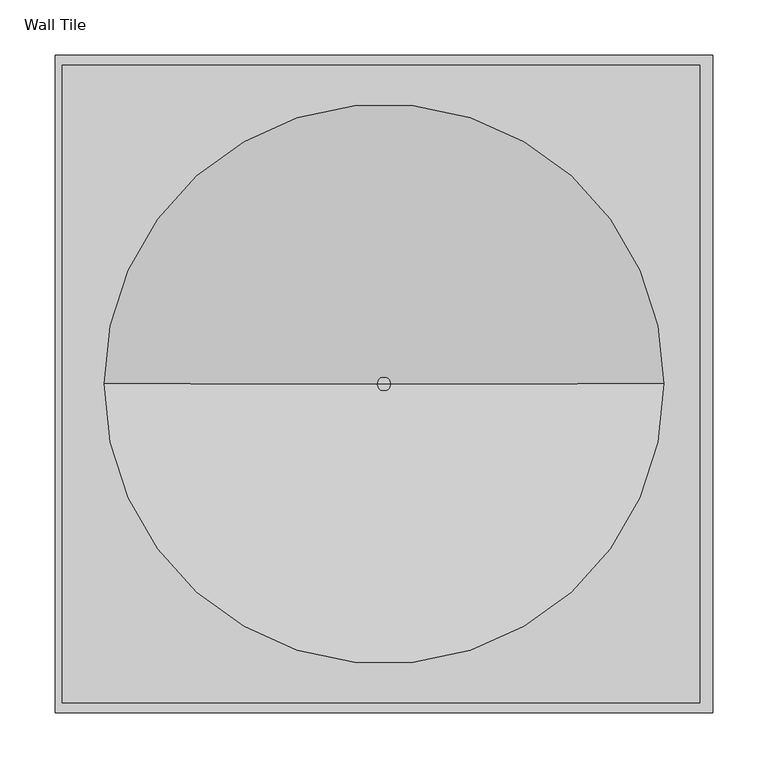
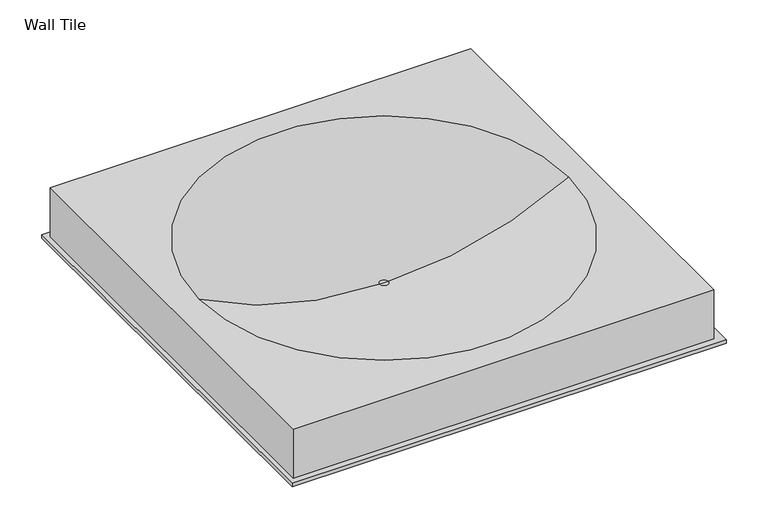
"""IFC4 building model written with IfcOpenShell, lengths in millimetres: proxy geometry, Ceiling_Tile-Qwel-Deep_Dish : Wall Tile."""

from ifc_helpers import new_model, si_unit, point, frame, origin, origin_with_axes, place, context, project, spatial, polyline, circle_curve, ellipse_curve, trimmed, outline, extrude, source, transform, mapped, element, save
from ifc_brep_helpers import plane_surface, revolved_surface, advanced_brep


def wall_tile_f553bee5(model_context):
    return source(origin(), model_context, "Body", "SolidModel", [
        advanced_brep(
        [(286.512, 289.2298, 76.43749), (-292.1, 289.2298, 76.43749), (-292.1, -289.3822, 76.43749), (286.512, -289.3822, 76.43749), (-254.0, 0.0, 76.43749), (254.0, 0.0, 76.43749), (286.512, 289.2298, 4.99999), (286.512, -289.3822, 4.99999), (-292.1, -289.3822, 4.99999), (-292.1, 289.2298, 4.99999), (6.35, 0.0, 11.2812882), (-6.35, 0.0, 11.2812882), (0.0, 0.0, 11.2812882)],
        [
            (0, 1),
            (1, 2),
            (2, 3),
            (3, 0),
            (4, 5, circle_curve(frame((0.0, 0.0, 76.43749), z_axis=(0.0, 0.0, -1.0), x_axis=(-1.0, 0.0, 0.0)), 254.0)),
            (5, 4, circle_curve(frame((0.0, 0.0, 76.43749), z_axis=(0.0, 0.0, -1.0), x_axis=(-1.0, 0.0, 0.0)), 254.0)),
            (6, 7),
            (7, 8),
            (8, 9),
            (9, 6),
            (0, 6),
            (9, 1),
            (8, 2),
            (7, 3),
            (10, 11, circle_curve(frame((0.0, 0.0, 11.2812882), z_axis=(0.0, 0.0, -1.0), x_axis=(-1.0, 0.0, 0.0)), 6.35)),
            (11, 4, circle_curve(frame((-6.35, 0.0, 514.5016366), z_axis=(0.0, 1.0, 0.0), x_axis=(1.0, 0.0, 0.0)), 503.2203484)),
            (5, 10, circle_curve(frame((6.35, 0.0, 514.5016366), z_axis=(0.0, 1.0, 0.0), x_axis=(-1.0, 0.0, 0.0)), 503.2203484)),
            (11, 10, circle_curve(frame((0.0, 0.0, 11.2812882), z_axis=(0.0, 0.0, -1.0), x_axis=(-1.0, 0.0, 0.0)), 6.35)),
            (10, 12),
            (12, 11),
        ],
        [
            plane_surface(frame((286.512, 289.2298, 76.43749), z_axis=(0.0, 0.0, 1.0), x_axis=(0.0, -1.0, 0.0))),
            plane_surface(frame((286.512, 289.2298, 4.99999), z_axis=(0.0, 0.0, -1.0), x_axis=(0.0, 1.0, 0.0))),
            plane_surface(frame((-292.1, 289.2298, 76.43749), z_axis=(0.0, 1.0, 0.0), x_axis=(0.0, 0.0, -1.0))),
            plane_surface(frame((-292.1, -289.3822, 76.43749), z_axis=(-1.0, 0.0, 0.0), x_axis=(0.0, 0.0, -1.0))),
            plane_surface(frame((286.512, -289.3822, 76.43749), z_axis=(0.0, -1.0, 0.0), x_axis=(0.0, 0.0, -1.0))),
            plane_surface(frame((286.512, 289.2298, 76.43749), z_axis=(1.0, 0.0, 0.0), x_axis=(0.0, 0.0, -1.0))),
            revolved_surface(trimmed(ellipse_curve(frame((-6.35, 0.0, 514.5016366), z_axis=(0.0, 1.0, 0.0), x_axis=(1.0, 0.0, 0.0)), 503.2203484, 503.2203484), [point((-6.35, 0.0, 11.2812882))], [point((-254.0, 0.0, 76.43749))], True, "CARTESIAN"), (0.0, 0.0, 114.53749), (0.0, 0.0, -1.0)),
            plane_surface(frame((0.0, 0.0, 11.2812882), z_axis=(0.0, 0.0, 1.0), x_axis=(-1.0, 0.0, 0.0))),
        ],
        [
            (0, [[1, 2, 3, 4], [5, 6]]),
            (1, [[7, 8, 9, 10]]),
            (2, [[11, -10, 12, -1]]),
            (3, [[-12, -9, 13, -2]]),
            (4, [[-13, -8, 14, -3]]),
            (5, [[-14, -7, -11, -4]]),
            (6, [[15, 16, -6, 17]]),
            (6, [[-5, -16, 18, -17]]),
            (7, [[19, 20, -15]]),
            (7, [[-20, -19, -18]]),
        ],
    ),
        extrude(outline(polyline([(298.45, -298.45), (-298.45, -298.45), (-298.45, 298.45), (298.45, 298.45), (298.45, -298.45)])), origin_with_axes(), (0.0, 0.0, 1.0), 4.99999),
    ])


if __name__ == "__main__":
    model = new_model("IFC4")
    model_context = context("Model", 3, world=origin())
    ifc_project = project(units=[si_unit("LENGTHUNIT", "METRE", prefix="MILLI")], contexts=[model_context])
    site = spatial("IfcSite", under=ifc_project)
    building = spatial("IfcBuilding", under=site)
    placement = place(None, origin())
    wall_tile_shape = wall_tile_f553bee5(model_context)
    element("IfcBuildingElementProxy", 1, Name="Ceiling_Tile-Qwel-Deep_Dish : Wall Tile", ObjectType="Ceiling_Tile-Qwel-Deep_Dish : Wall Tile", at=placement, inside=building, context=model_context, shape_type="MappedRepresentation", body=[
        mapped(wall_tile_shape, transform((0.0, 0.0, 0.0), x_axis=(1.0, 0.0, 0.0), y_axis=(0.0, 1.0, 0.0), z_axis=(0.0, 0.0, 1.0))),
    ])
    save(model, "model.ifc")
